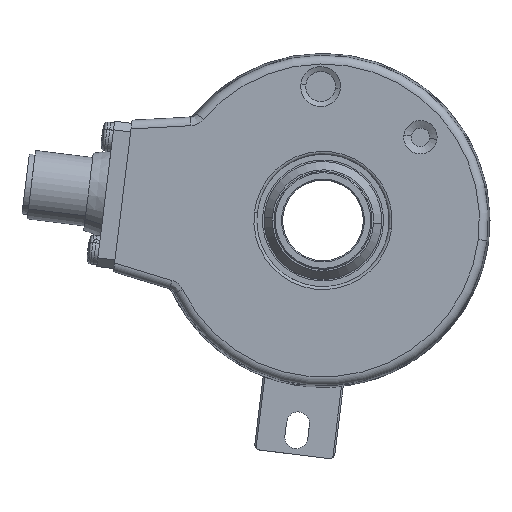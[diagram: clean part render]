
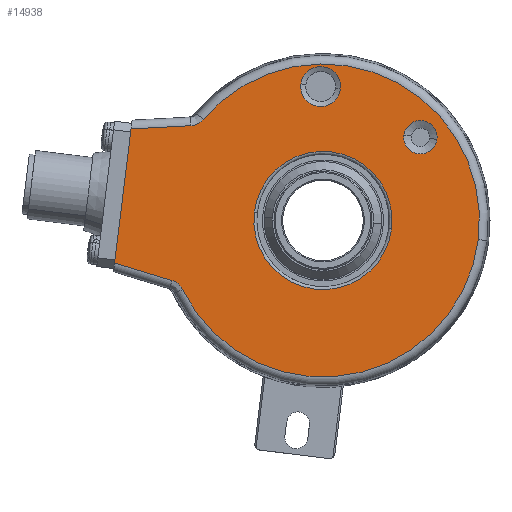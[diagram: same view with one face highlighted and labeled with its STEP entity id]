
A CAD part, left-side view. The second image highlights one B-rep face of the part: STEP entity #14938.
In plain terms, the highlighted planar face has unit normal (-1, 0, 0).
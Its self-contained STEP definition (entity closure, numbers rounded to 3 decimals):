
#509 = CARTESIAN_POINT ( 'NONE',  ( -19., -14.042, 14.804 ) ) ;
#1088 = CARTESIAN_POINT ( 'NONE',  ( -19., 0.406, 23.246 ) ) ;
#1577 = AXIS2_PLACEMENT_3D ( 'NONE', #2096, #2063, #2057 ) ;
#2057 = DIRECTION ( 'NONE',  ( 0., -0.993, -0.122 ) ) ;
#2058 = VERTEX_POINT ( 'NONE', #17654 ) ;
#2063 = DIRECTION ( 'NONE',  ( 1., 0., 0. ) ) ;
#2096 = CARTESIAN_POINT ( 'NONE',  ( -19., -16.919, 14.45 ) ) ;
#2166 = ORIENTED_EDGE ( 'NONE', *, *, #6899, .T. ) ;
#2344 = ORIENTED_EDGE ( 'NONE', *, *, #23344, .T. ) ;
#2407 = VECTOR ( 'NONE', #14267, 1000. ) ;
#2460 = EDGE_LOOP ( 'NONE', ( #2344, #13546 ) ) ;
#2461 = LINE ( 'NONE', #16708, #2407 ) ;
#2605 = AXIS2_PLACEMENT_3D ( 'NONE', #4381, #17804, #4349 ) ;
#2861 = ORIENTED_EDGE ( 'NONE', *, *, #31110, .T. ) ;
#3095 = DIRECTION ( 'NONE',  ( 0., -0.993, -0.122 ) ) ;
#3217 = CARTESIAN_POINT ( 'NONE',  ( -19., 0., 0. ) ) ;
#3415 = PLANE ( 'NONE',  #10345 ) ;
#3482 = VERTEX_POINT ( 'NONE', #15307 ) ;
#3493 = CARTESIAN_POINT ( 'NONE',  ( -19., 22.914, 16.45 ) ) ;
#3503 = VERTEX_POINT ( 'NONE', #13100 ) ;
#3687 = ORIENTED_EDGE ( 'NONE', *, *, #11231, .T. ) ;
#3784 = CARTESIAN_POINT ( 'NONE',  ( -19., 21.917, 16.669 ) ) ;
#4046 = DIRECTION ( 'NONE',  ( 0., -0.993, -0.122 ) ) ;
#4233 = DIRECTION ( 'NONE',  ( 1., 0., 0. ) ) ;
#4349 = DIRECTION ( 'NONE',  ( 0., -0.993, -0.122 ) ) ;
#4381 = CARTESIAN_POINT ( 'NONE',  ( -19., 0., 0. ) ) ;
#4810 = ORIENTED_EDGE ( 'NONE', *, *, #17772, .T. ) ;
#5034 = ORIENTED_EDGE ( 'NONE', *, *, #29065, .T. ) ;
#5710 = VERTEX_POINT ( 'NONE', #6781 ) ;
#6587 = CARTESIAN_POINT ( 'NONE',  ( -19., 22.503, 16.493 ) ) ;
#6781 = CARTESIAN_POINT ( 'NONE',  ( -19., 24.396, -11.966 ) ) ;
#6899 = EDGE_CURVE ( 'NONE', #12903, #3482, #22219, .T. ) ;
#7391 = VERTEX_POINT ( 'NONE', #24389 ) ;
#7842 = CIRCLE ( 'NONE', #1577, 2.899 ) ;
#8499 = CARTESIAN_POINT ( 'NONE',  ( -19., 21.552, 16.851 ) ) ;
#8639 = FACE_OUTER_BOUND ( 'NONE', #30256, .T. ) ;
#8675 = FACE_BOUND ( 'NONE', #30968, .T. ) ;
#8742 = FACE_BOUND ( 'NONE', #2460, .T. ) ;
#8814 = FACE_BOUND ( 'NONE', #22337, .T. ) ;
#10274 = VECTOR ( 'NONE', #17855, 1000. ) ;
#10299 = LINE ( 'NONE', #18123, #10274 ) ;
#10345 = AXIS2_PLACEMENT_3D ( 'NONE', #3217, #4233, #3095 ) ;
#10444 = VERTEX_POINT ( 'NONE', #21250 ) ;
#10751 = AXIS2_PLACEMENT_3D ( 'NONE', #1088, #31124, #16175 ) ;
#10803 = CARTESIAN_POINT ( 'NONE',  ( -19., 20.777, 17.512 ) ) ;
#11231 = EDGE_CURVE ( 'NONE', #11705, #10444, #25520, .T. ) ;
#11404 = DIRECTION ( 'NONE',  ( 0., -0.993, -0.122 ) ) ;
#11515 = DIRECTION ( 'NONE',  ( -1., 0., 0. ) ) ;
#11523 = VECTOR ( 'NONE', #23339, 1000. ) ;
#11677 = LINE ( 'NONE', #23812, #11523 ) ;
#11705 = VERTEX_POINT ( 'NONE', #26840 ) ;
#11809 = ORIENTED_EDGE ( 'NONE', *, *, #29355, .F. ) ;
#11992 = ORIENTED_EDGE ( 'NONE', *, *, #25413, .T. ) ;
#12185 = CARTESIAN_POINT ( 'NONE',  ( -19., 0., 0. ) ) ;
#12896 = DIRECTION ( 'NONE',  ( 0., -0.993, -0.122 ) ) ;
#12903 = VERTEX_POINT ( 'NONE', #16126 ) ;
#13075 = DIRECTION ( 'NONE',  ( 1., 0., 0. ) ) ;
#13100 = CARTESIAN_POINT ( 'NONE',  ( -19., 11.911, 1.462 ) ) ;
#13113 = CARTESIAN_POINT ( 'NONE',  ( -19., -16.919, 14.45 ) ) ;
#13130 = VERTEX_POINT ( 'NONE', #27529 ) ;
#13307 = AXIS2_PLACEMENT_3D ( 'NONE', #13853, #13774, #13737 ) ;
#13473 = AXIS2_PLACEMENT_3D ( 'NONE', #30982, #13818, #4046 ) ;
#13546 = ORIENTED_EDGE ( 'NONE', *, *, #20111, .T. ) ;
#13737 = DIRECTION ( 'NONE',  ( 0., -0.993, -0.122 ) ) ;
#13774 = DIRECTION ( 'NONE',  ( -1., 0., 0. ) ) ;
#13805 = EDGE_CURVE ( 'NONE', #7391, #10444, #18941, .T. ) ;
#13818 = DIRECTION ( 'NONE',  ( 1., 0., 0. ) ) ;
#13853 = CARTESIAN_POINT ( 'NONE',  ( -19., 0., 0. ) ) ;
#14137 = CARTESIAN_POINT ( 'NONE',  ( -19., 26.213, -10.418 ) ) ;
#14149 = CARTESIAN_POINT ( 'NONE',  ( -19., 26.016, -10.478 ) ) ;
#14170 = CARTESIAN_POINT ( 'NONE',  ( -19., 25.828, -10.557 ) ) ;
#14226 = CARTESIAN_POINT ( 'NONE',  ( -19., 25.471, -10.753 ) ) ;
#14261 = CARTESIAN_POINT ( 'NONE',  ( -19., 25.3, -10.87 ) ) ;
#14267 = DIRECTION ( 'NONE',  ( 0., 0.999, -0.052 ) ) ;
#14287 = CARTESIAN_POINT ( 'NONE',  ( -19., 24.989, -11.135 ) ) ;
#14293 = CARTESIAN_POINT ( 'NONE',  ( -19., 24.848, -11.282 ) ) ;
#14336 = CARTESIAN_POINT ( 'NONE',  ( -19., 24.597, -11.605 ) ) ;
#14382 = CARTESIAN_POINT ( 'NONE',  ( -19., 24.487, -11.781 ) ) ;
#14581 = CARTESIAN_POINT ( 'NONE',  ( -19., 24.396, -11.966 ) ) ;
#14649 = CIRCLE ( 'NONE', #15045, 2.899 ) ;
#14666 = AXIS2_PLACEMENT_3D ( 'NONE', #24200, #24141, #24057 ) ;
#14938 = ADVANCED_FACE ( 'NONE', ( #8742, #8675, #8814, #8639 ), #3415, .F. ) ;
#15045 = AXIS2_PLACEMENT_3D ( 'NONE', #13113, #13075, #12896 ) ;
#15307 = CARTESIAN_POINT ( 'NONE',  ( -19., 3.846, 23.669 ) ) ;
#15665 = CARTESIAN_POINT ( 'NONE',  ( -19., 21.376, 16.962 ) ) ;
#16030 = B_SPLINE_CURVE_WITH_KNOTS ( 'NONE', 3,
 ( #14581, #14382, #14336, #14293, #14287, #14261, #14226, #14170, #14149, #14137 ),
 .UNSPECIFIED., .F., .F.,
 ( 4, 2, 2, 2, 4 ),
 ( 0., 0.001, 0.001, 0.002, 0.002 ),
 .UNSPECIFIED. ) ;
#16126 = CARTESIAN_POINT ( 'NONE',  ( -19., -3.034, 22.824 ) ) ;
#16175 = DIRECTION ( 'NONE',  ( 0., -0.993, -0.122 ) ) ;
#16708 = CARTESIAN_POINT ( 'NONE',  ( -19., 33.046, 15.919 ) ) ;
#16723 = ORIENTED_EDGE ( 'NONE', *, *, #13805, .F. ) ;
#17654 = CARTESIAN_POINT ( 'NONE',  ( -19., -11.911, -1.462 ) ) ;
#17772 = EDGE_CURVE ( 'NONE', #3482, #12903, #32586, .T. ) ;
#17804 = DIRECTION ( 'NONE',  ( 1., 0., 0. ) ) ;
#17855 = DIRECTION ( 'NONE',  ( 0., -0.122, 0.993 ) ) ;
#18123 = CARTESIAN_POINT ( 'NONE',  ( -19., 36.354, -8.886 ) ) ;
#18941 = B_SPLINE_CURVE_WITH_KNOTS ( 'NONE', 3,
 ( #3493, #28070, #6587, #31275, #3784, #8499, #15665, #28839, #23571, #10803 ),
 .UNSPECIFIED., .F., .F.,
 ( 4, 2, 2, 2, 4 ),
 ( 0., 0.001, 0.001, 0.002, 0.002 ),
 .UNSPECIFIED. ) ;
#20111 = EDGE_CURVE ( 'NONE', #28637, #30912, #14649, .T. ) ;
#21139 = ORIENTED_EDGE ( 'NONE', *, *, #27404, .F. ) ;
#21197 = ORIENTED_EDGE ( 'NONE', *, *, #25575, .T. ) ;
#21250 = CARTESIAN_POINT ( 'NONE',  ( -19., 20.777, 17.512 ) ) ;
#22151 = VERTEX_POINT ( 'NONE', #22182 ) ;
#22182 = CARTESIAN_POINT ( 'NONE',  ( -19., 26.213, -10.418 ) ) ;
#22219 = CIRCLE ( 'NONE', #13473, 3.466 ) ;
#22337 = EDGE_LOOP ( 'NONE', ( #11992, #25391 ) ) ;
#23339 = DIRECTION ( 'NONE',  ( 0., -0.956, -0.292 ) ) ;
#23344 = EDGE_CURVE ( 'NONE', #30912, #28637, #7842, .T. ) ;
#23359 = CIRCLE ( 'NONE', #2605, 12. ) ;
#23571 = CARTESIAN_POINT ( 'NONE',  ( -19., 20.91, 17.355 ) ) ;
#23812 = CARTESIAN_POINT ( 'NONE',  ( -19., 25.556, -10.618 ) ) ;
#24057 = DIRECTION ( 'NONE',  ( 0., -0.993, -0.122 ) ) ;
#24141 = DIRECTION ( 'NONE',  ( 1., 0., 0. ) ) ;
#24200 = CARTESIAN_POINT ( 'NONE',  ( -19., 0., 0. ) ) ;
#24389 = CARTESIAN_POINT ( 'NONE',  ( -19., 22.914, 16.45 ) ) ;
#25391 = ORIENTED_EDGE ( 'NONE', *, *, #26339, .T. ) ;
#25413 = EDGE_CURVE ( 'NONE', #2058, #3503, #27433, .T. ) ;
#25520 = CIRCLE ( 'NONE', #26644, 27.173 ) ;
#25575 = EDGE_CURVE ( 'NONE', #5710, #11705, #26779, .T. ) ;
#26339 = EDGE_CURVE ( 'NONE', #3503, #2058, #23359, .T. ) ;
#26644 = AXIS2_PLACEMENT_3D ( 'NONE', #12185, #11515, #11404 ) ;
#26736 = VERTEX_POINT ( 'NONE', #27419 ) ;
#26779 = CIRCLE ( 'NONE', #13307, 27.173 ) ;
#26840 = CARTESIAN_POINT ( 'NONE',  ( -19., -26.97, -3.312 ) ) ;
#27404 = EDGE_CURVE ( 'NONE', #5710, #22151, #16030, .T. ) ;
#27419 = CARTESIAN_POINT ( 'NONE',  ( -19., 33.31, 15.905 ) ) ;
#27433 = CIRCLE ( 'NONE', #14666, 12. ) ;
#27529 = CARTESIAN_POINT ( 'NONE',  ( -19., 36.168, -7.374 ) ) ;
#28070 = CARTESIAN_POINT ( 'NONE',  ( -19., 22.708, 16.461 ) ) ;
#28637 = VERTEX_POINT ( 'NONE', #30139 ) ;
#28839 = CARTESIAN_POINT ( 'NONE',  ( -19., 21.056, 17.213 ) ) ;
#29065 = EDGE_CURVE ( 'NONE', #13130, #22151, #11677, .T. ) ;
#29355 = EDGE_CURVE ( 'NONE', #13130, #26736, #10299, .T. ) ;
#30139 = CARTESIAN_POINT ( 'NONE',  ( -19., -19.796, 14.097 ) ) ;
#30256 = EDGE_LOOP ( 'NONE', ( #16723, #2861, #11809, #5034, #21139, #21197, #3687 ) ) ;
#30912 = VERTEX_POINT ( 'NONE', #509 ) ;
#30968 = EDGE_LOOP ( 'NONE', ( #4810, #2166 ) ) ;
#30982 = CARTESIAN_POINT ( 'NONE',  ( -19., 0.406, 23.246 ) ) ;
#31110 = EDGE_CURVE ( 'NONE', #7391, #26736, #2461, .T. ) ;
#31124 = DIRECTION ( 'NONE',  ( 1., 0., 0. ) ) ;
#31275 = CARTESIAN_POINT ( 'NONE',  ( -19., 22.108, 16.597 ) ) ;
#32586 = CIRCLE ( 'NONE', #10751, 3.466 ) ;
